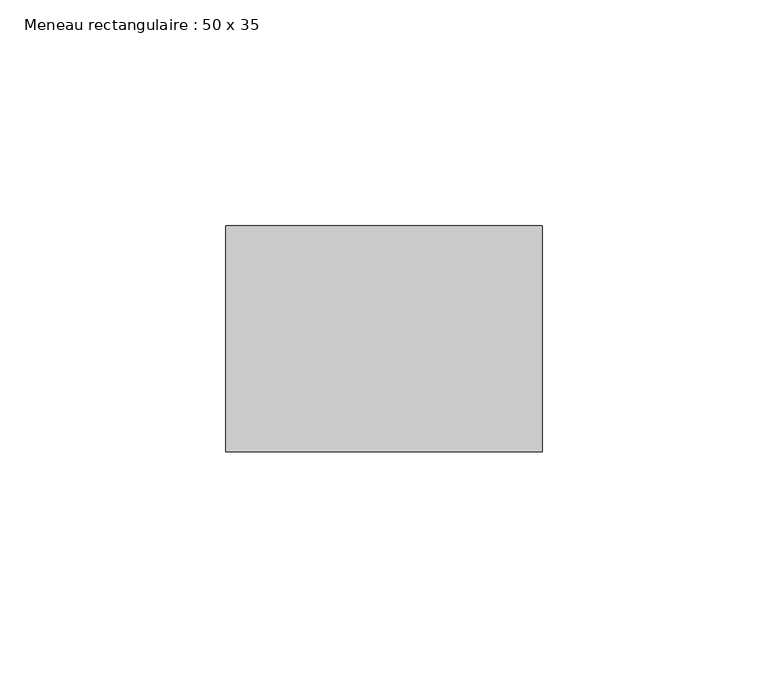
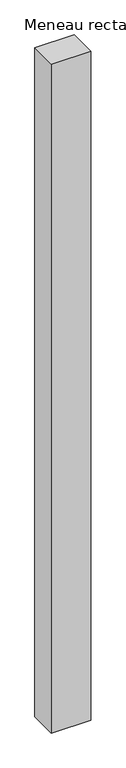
"""IFC4 building model written with IfcOpenShell, lengths in millimetres: member geometry, Meneau rectangulaire : 50 x 35."""

from ifc_helpers import new_model, si_unit, frame, origin, place, context, project, spatial, polyline, outline, extrude, source, transform, mapped, element, save


def meneau_rectangulaire_50_x_35_a4f07155(model_context):
    return source(origin(), model_context, "Body", "SweptSolid", [
        extrude(outline(polyline([(0.0, 0.0), (0.0, -50.0), (-70.0, -50.0), (-70.0, 0.0), (0.0, 0.0)])), frame((0.0, 0.0, -1252.5606896), z_axis=(0.0, 0.0, 1.0), x_axis=(1.0, 0.0, 0.0)), (0.0, 0.0, 1.0), 1252.5606896),
    ])


if __name__ == "__main__":
    model = new_model("IFC4")
    model_context = context("Model", 3, world=origin())
    ifc_project = project(units=[si_unit("LENGTHUNIT", "METRE", prefix="MILLI")], contexts=[model_context])
    site = spatial("IfcSite", under=ifc_project)
    building = spatial("IfcBuilding", under=site)
    placement = place(None, origin())
    meneau_rectangulaire_50_x_35_shape = meneau_rectangulaire_50_x_35_a4f07155(model_context)
    element("IfcMember", 1, ObjectType="Meneau rectangulaire : 50 x 35", at=placement, inside=building, context=model_context, shape_type="MappedRepresentation", body=[
        mapped(meneau_rectangulaire_50_x_35_shape, transform((0.0, 0.0, 0.0), x_axis=(1.0, 0.0, 0.0), y_axis=(0.0, 1.0, 0.0), z_axis=(0.0, 0.0, 1.0))),
    ])
    save(model, "model.ifc")
